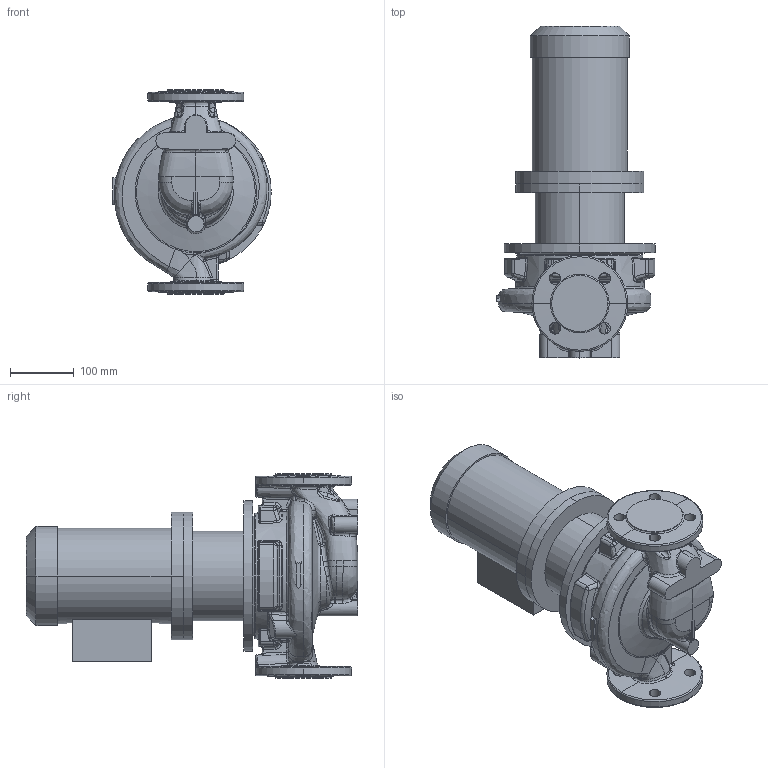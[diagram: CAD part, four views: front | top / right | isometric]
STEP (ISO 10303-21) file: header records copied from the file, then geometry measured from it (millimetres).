
FILE_DESCRIPTION (( 'STEP AP214' ), '1' );
FILE_NAME ('KRL 40-160-4-0,55.STEP', '2026-03-18T05:39:00', ( '' ), ( '' ), 'SwSTEP 2.0', 'SolidWorks 2016', '' );
FILE_SCHEMA (( 'AUTOMOTIVE_DESIGN' ));
Length unit declared in the file: millimetre
Products named in the file (1): KRL 40-160-4-0,55
Bounding box: 248 x 519.3 x 320 mm (x, y, z)
Volume: 13391217.9 mm3; surface area: 753656.4 mm2
Topology: 4 solids, 4 shells, 713 faces, 1716 edges, 1000 vertices
Faces by surface type: bspline 353, cylinder 126, plane 97, torus 52, cone 45, sphere 40
Entity records: 82362 total; most frequent: CARTESIAN_POINT 60963, ORIENTED_EDGE 3374, DIRECTION 2051, EDGE_CURVE 1687, VERTEX_POINT 1000, AXIS2_PLACEMENT_3D 902, B_SPLINE_CURVE_WITH_KNOTS 828, EDGE_LOOP 747
